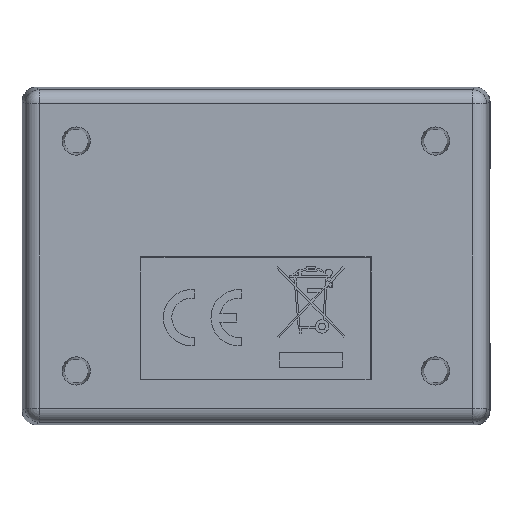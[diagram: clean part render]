
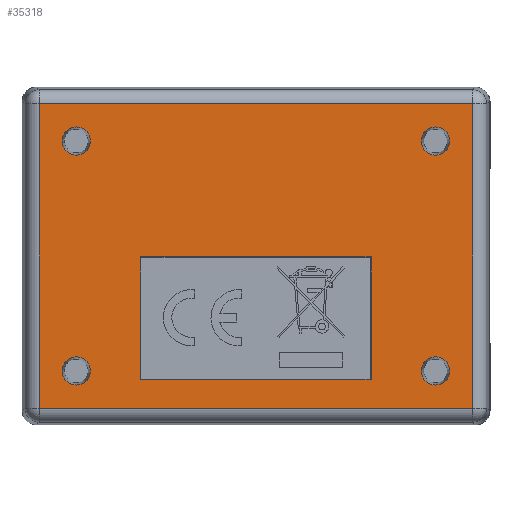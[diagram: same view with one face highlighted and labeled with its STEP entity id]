
A CAD part, front view. The second image highlights one B-rep face of the part: STEP entity #35318.
In plain terms, the highlighted planar face has unit normal (0, -1, 0) as drawn and (0, 0, -1) by its records, which use the part's own axes.
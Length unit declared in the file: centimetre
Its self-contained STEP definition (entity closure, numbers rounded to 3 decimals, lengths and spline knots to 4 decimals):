
#13228=CIRCLE('',#36606,0.1249);
#13229=CIRCLE('',#36607,0.1249);
#13230=CIRCLE('',#36608,0.1249);
#13231=CIRCLE('',#36609,0.1249);
#14578=VERTEX_POINT('',#45396);
#14579=VERTEX_POINT('',#45398);
#14581=VERTEX_POINT('',#45404);
#14583=VERTEX_POINT('',#45410);
#14704=VERTEX_POINT('',#46482);
#14705=VERTEX_POINT('',#46484);
#14706=VERTEX_POINT('',#46486);
#14707=VERTEX_POINT('',#46488);
#14708=VERTEX_POINT('',#46490);
#14709=VERTEX_POINT('',#46491);
#14710=VERTEX_POINT('',#46493);
#14711=VERTEX_POINT('',#46495);
#16973=VECTOR('',#39114,1.);
#16976=VECTOR('',#39118,1.);
#16979=VECTOR('',#39122,1.);
#16982=VECTOR('',#39126,1.);
#17143=VECTOR('',#39359,1.);
#17144=VECTOR('',#39360,1.);
#17145=VECTOR('',#39361,1.);
#17146=VECTOR('',#39362,1.);
#19655=LINE('',#45397,#16973);
#19658=LINE('',#45403,#16976);
#19661=LINE('',#45409,#16979);
#19664=LINE('',#45414,#16982);
#19825=LINE('',#46489,#17143);
#19826=LINE('',#46492,#17144);
#19827=LINE('',#46494,#17145);
#19828=LINE('',#46496,#17146);
#22426=EDGE_CURVE('',#14579,#14578,#19655,.F.);
#22429=EDGE_CURVE('',#14581,#14579,#19658,.F.);
#22432=EDGE_CURVE('',#14583,#14581,#19661,.F.);
#22435=EDGE_CURVE('',#14578,#14583,#19664,.F.);
#22616=EDGE_CURVE('',#14704,#14704,#13228,.F.);
#22617=EDGE_CURVE('',#14705,#14705,#13229,.F.);
#22618=EDGE_CURVE('',#14706,#14706,#13230,.F.);
#22619=EDGE_CURVE('',#14707,#14707,#13231,.F.);
#22620=EDGE_CURVE('',#14708,#14709,#19825,.T.);
#22621=EDGE_CURVE('',#14710,#14708,#19826,.T.);
#22622=EDGE_CURVE('',#14711,#14710,#19827,.T.);
#22623=EDGE_CURVE('',#14709,#14711,#19828,.T.);
#26869=ORIENTED_EDGE('',*,*,#22616,.T.);
#26870=ORIENTED_EDGE('',*,*,#22617,.T.);
#26871=ORIENTED_EDGE('',*,*,#22618,.T.);
#26872=ORIENTED_EDGE('',*,*,#22619,.T.);
#26873=ORIENTED_EDGE('',*,*,#22620,.F.);
#26874=ORIENTED_EDGE('',*,*,#22621,.F.);
#26875=ORIENTED_EDGE('',*,*,#22622,.F.);
#26876=ORIENTED_EDGE('',*,*,#22623,.F.);
#26877=ORIENTED_EDGE('',*,*,#22426,.T.);
#26878=ORIENTED_EDGE('',*,*,#22435,.T.);
#26879=ORIENTED_EDGE('',*,*,#22432,.T.);
#26880=ORIENTED_EDGE('',*,*,#22429,.T.);
#32518=EDGE_LOOP('',(#26869));
#32519=EDGE_LOOP('',(#26870));
#32520=EDGE_LOOP('',(#26871));
#32521=EDGE_LOOP('',(#26872));
#32522=EDGE_LOOP('',(#26873,#26874,#26875,#26876));
#32523=EDGE_LOOP('',(#26877,#26878,#26879,#26880));
#33929=FACE_BOUND('',#32518,.T.);
#33930=FACE_BOUND('',#32519,.T.);
#33931=FACE_BOUND('',#32520,.T.);
#33932=FACE_BOUND('',#32521,.T.);
#33933=FACE_BOUND('',#32522,.T.);
#33934=FACE_BOUND('',#32523,.T.);
#35318=ADVANCED_FACE('',(#33929,#33930,#33931,#33932,#33933,#33934),#54576,
 .F.);
#36605=AXIS2_PLACEMENT_3D('',#46480,#39350,$);
#36606=AXIS2_PLACEMENT_3D('',#46481,#39351,#39352);
#36607=AXIS2_PLACEMENT_3D('',#46483,#39353,#39354);
#36608=AXIS2_PLACEMENT_3D('',#46485,#39355,#39356);
#36609=AXIS2_PLACEMENT_3D('',#46487,#39357,#39358);
#39114=DIRECTION('',(-1.,0.,0.));
#39118=DIRECTION('',(0.,1.,0.));
#39122=DIRECTION('',(1.,0.,0.));
#39126=DIRECTION('',(0.,-1.,0.));
#39350=DIRECTION('',(0.,0.,1.));
#39351=DIRECTION('',(0.,0.,-1.));
#39352=DIRECTION('',(-0.125,0.,0.));
#39353=DIRECTION('',(0.,0.,-1.));
#39354=DIRECTION('',(-0.125,0.,0.));
#39355=DIRECTION('',(0.,0.,-1.));
#39356=DIRECTION('',(-0.125,0.,0.));
#39357=DIRECTION('',(0.,0.,-1.));
#39358=DIRECTION('',(-0.125,0.,0.));
#39359=DIRECTION('',(-1.,0.,0.));
#39360=DIRECTION('',(0.,1.,0.));
#39361=DIRECTION('',(1.,0.,0.));
#39362=DIRECTION('',(0.,-1.,0.));
#45396=CARTESIAN_POINT('',(1.091,-1.0176,-0.0032));
#45397=CARTESIAN_POINT('',(0.1374,-1.0176,-0.0032));
#45398=CARTESIAN_POINT('',(0.0083,-1.0176,-0.0032));
#45403=CARTESIAN_POINT('',(0.0083,0.,-0.0032));
#45404=CARTESIAN_POINT('',(0.0083,1.0176,-0.0032));
#45409=CARTESIAN_POINT('',(0.1374,1.0176,-0.0032));
#45410=CARTESIAN_POINT('',(1.091,1.0176,-0.0032));
#45414=CARTESIAN_POINT('',(1.091,0.,-0.0032));
#46480=CARTESIAN_POINT('',(0.,0.,-0.0032));
#46481=CARTESIAN_POINT('',(1.016,1.5875,-0.0032));
#46482=CARTESIAN_POINT('',(1.1409,1.5875,-0.0032));
#46483=CARTESIAN_POINT('',(1.016,-1.5875,-0.0032));
#46484=CARTESIAN_POINT('',(1.1409,-1.5875,-0.0032));
#46485=CARTESIAN_POINT('',(-1.016,-1.5875,-0.0032));
#46486=CARTESIAN_POINT('',(-0.8911,-1.5875,-0.0032));
#46487=CARTESIAN_POINT('',(-1.016,1.5875,-0.0032));
#46488=CARTESIAN_POINT('',(-0.8911,1.5875,-0.0032));
#46489=CARTESIAN_POINT('',(0.,1.9149,-0.0032));
#46490=CARTESIAN_POINT('',(1.3434,1.9149,-0.0032));
#46491=CARTESIAN_POINT('',(-1.3434,1.9149,-0.0032));
#46492=CARTESIAN_POINT('',(1.3434,0.,-0.0032));
#46493=CARTESIAN_POINT('',(1.3434,-1.9149,-0.0032));
#46494=CARTESIAN_POINT('',(0.,-1.9149,-0.0032));
#46495=CARTESIAN_POINT('',(-1.3434,-1.9149,-0.0032));
#46496=CARTESIAN_POINT('',(-1.3434,0.,-0.0032));
#54576=PLANE('',#36605);
